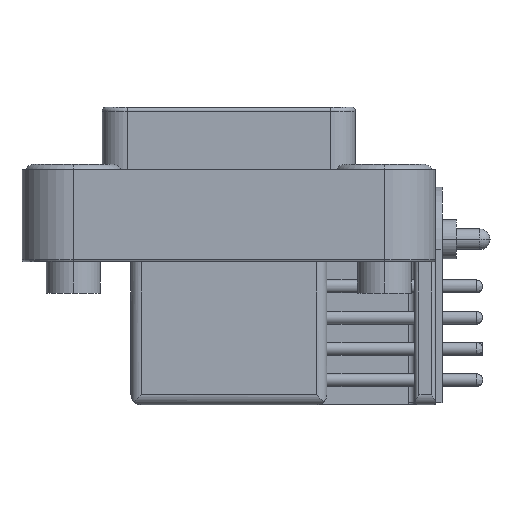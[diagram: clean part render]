
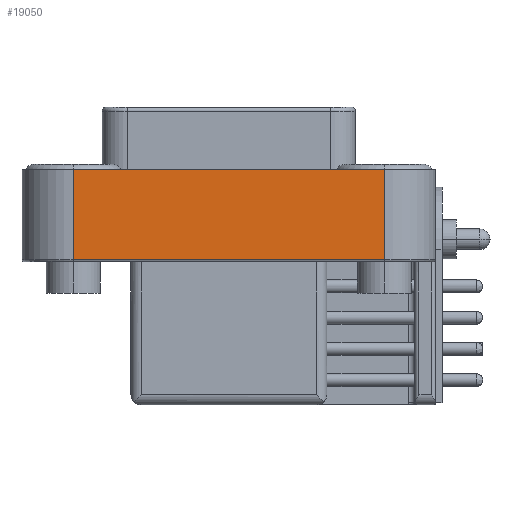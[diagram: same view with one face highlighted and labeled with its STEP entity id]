
A CAD part, left-side view. The second image highlights one B-rep face of the part: STEP entity #19050.
In plain terms, the highlighted planar face has unit normal (-1, 0, 0).
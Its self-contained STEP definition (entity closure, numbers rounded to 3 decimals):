
#284=DIRECTION('',(0.,-1.,0.));
#285=VECTOR('',#284,37.922);
#286=CARTESIAN_POINT('',(-37.211,18.961,0.));
#287=LINE('',#286,#285);
#5353=DIRECTION('',(0.,1.,0.));
#5354=VECTOR('',#5353,37.922);
#5355=CARTESIAN_POINT('',(-37.211,-18.961,-10.998));
#5356=LINE('',#5355,#5354);
#5357=DIRECTION('',(0.,0.,-1.));
#5358=VECTOR('',#5357,10.998);
#5359=CARTESIAN_POINT('',(-37.211,18.961,0.));
#5360=LINE('',#5359,#5358);
#5376=DIRECTION('',(0.,0.,-1.));
#5377=VECTOR('',#5376,10.998);
#5378=CARTESIAN_POINT('',(-37.211,-18.961,0.));
#5379=LINE('',#5378,#5377);
#8276=CARTESIAN_POINT('',(-37.211,18.961,0.));
#8278=VERTEX_POINT('',#8276);
#8279=CARTESIAN_POINT('',(-37.211,-18.961,0.));
#8280=VERTEX_POINT('',#8279);
#8912=CARTESIAN_POINT('',(-37.211,18.961,-10.998));
#8913=VERTEX_POINT('',#8912);
#8916=CARTESIAN_POINT('',(-37.211,-18.961,-10.998));
#8917=VERTEX_POINT('',#8916);
#19037=CARTESIAN_POINT('',(-37.211,18.961,0.));
#19038=DIRECTION('',(-1.,0.,0.));
#19039=DIRECTION('',(0.,-1.,0.));
#19040=AXIS2_PLACEMENT_3D('',#19037,#19038,#19039);
#19041=PLANE('',#19040);
#19043=ORIENTED_EDGE('',*,*,#19042,.T.);
#19044=ORIENTED_EDGE('',*,*,#19032,.F.);
#19045=ORIENTED_EDGE('',*,*,#10553,.T.);
#19047=ORIENTED_EDGE('',*,*,#19046,.T.);
#19048=EDGE_LOOP('',(#19043,#19044,#19045,#19047));
#19049=FACE_OUTER_BOUND('',#19048,.F.);
#19050=ADVANCED_FACE('',(#19049),#19041,.T.);
#10553=EDGE_CURVE('',#8278,#8280,#287,.T.);
#19032=EDGE_CURVE('',#8278,#8913,#5360,.T.);
#19042=EDGE_CURVE('',#8917,#8913,#5356,.T.);
#19046=EDGE_CURVE('',#8280,#8917,#5379,.T.);
